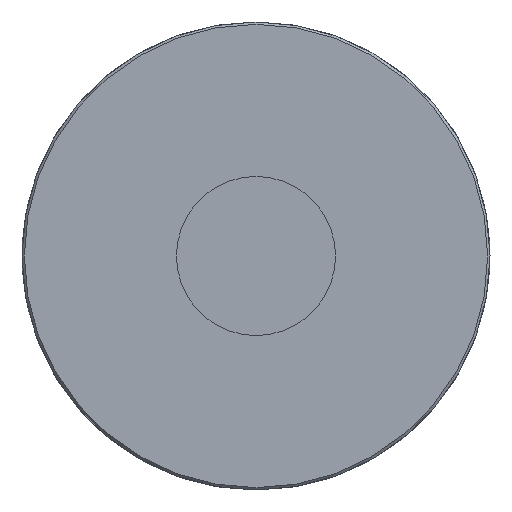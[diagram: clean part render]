
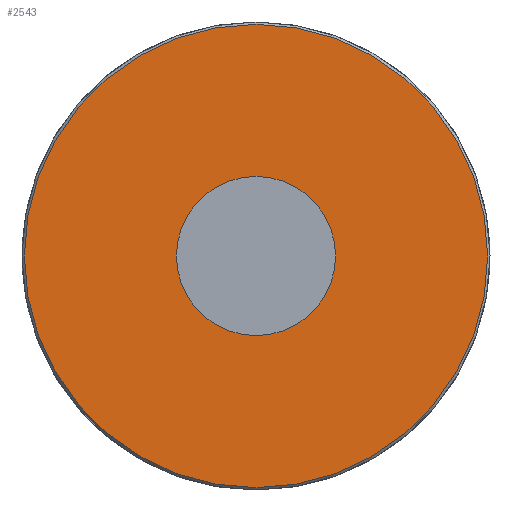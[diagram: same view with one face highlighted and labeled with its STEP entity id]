
A CAD part, left-side view. The second image highlights one B-rep face of the part: STEP entity #2543.
In plain terms, the highlighted planar face has unit normal (-1, 0, 0).
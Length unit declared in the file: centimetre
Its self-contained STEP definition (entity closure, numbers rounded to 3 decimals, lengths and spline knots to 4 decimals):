
#786=CIRCLE('',#2692,1.7);
#788=CIRCLE('',#2698,4.95);
#861=VERTEX_POINT('',#3270);
#863=VERTEX_POINT('',#3278);
#1254=EDGE_CURVE('',#861,#861,#786,.T.);
#1256=EDGE_CURVE('',#863,#863,#788,.T.);
#1582=ORIENTED_EDGE('',*,*,#1254,.T.);
#1583=ORIENTED_EDGE('',*,*,#1256,.F.);
#2163=EDGE_LOOP('',(#1582));
#2164=EDGE_LOOP('',(#1583));
#2356=FACE_BOUND('',#2163,.T.);
#2357=FACE_BOUND('',#2164,.T.);
#2543=ADVANCED_FACE('',(#2356,#2357),#14441,.T.);
#2692=AXIS2_PLACEMENT_3D('',#3269,#2877,#2878);
#2698=AXIS2_PLACEMENT_3D('',#3277,#2887,#2888);
#2706=AXIS2_PLACEMENT_3D('',#3445,#2909,$);
#2877=DIRECTION('',(1.,0.,0.));
#2878=DIRECTION('',(0.,0.,1.7));
#2887=DIRECTION('',(1.,0.,0.));
#2888=DIRECTION('',(0.,0.,4.95));
#2909=DIRECTION('',(-1.,0.,0.));
#3269=CARTESIAN_POINT('',(0.,0.,0.));
#3270=CARTESIAN_POINT('',(0.,0.,1.7));
#3277=CARTESIAN_POINT('',(0.,0.,0.));
#3278=CARTESIAN_POINT('',(0.,0.,-4.95));
#3445=CARTESIAN_POINT('',(0.,0.,-2.5));
#14441=PLANE('',#2706);
